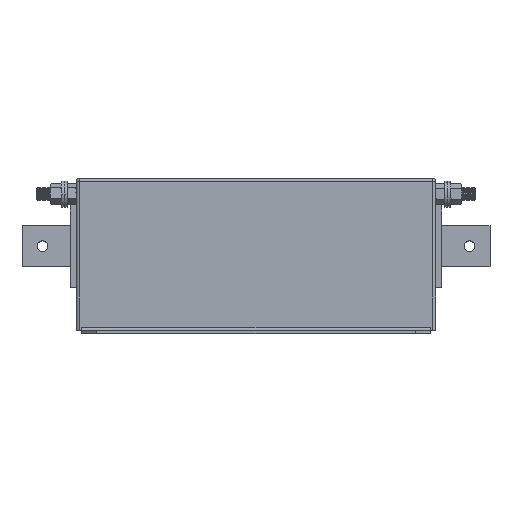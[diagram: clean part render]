
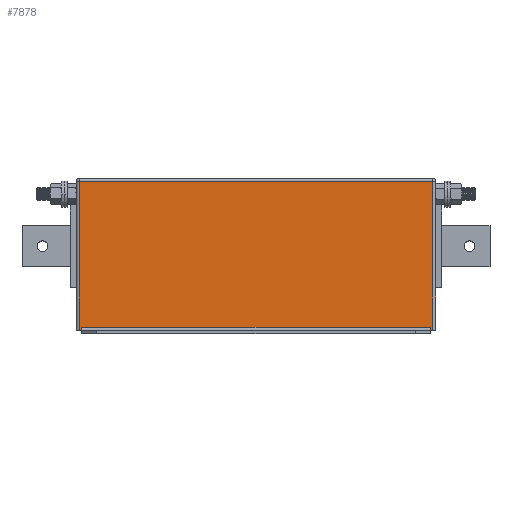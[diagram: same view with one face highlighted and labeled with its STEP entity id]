
A CAD part, top view. The second image highlights one B-rep face of the part: STEP entity #7878.
In plain terms, the highlighted planar face has unit normal (0, 0, 1).
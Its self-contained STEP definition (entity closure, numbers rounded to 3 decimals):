
#4 = LINE ( 'NONE', #4907, #1492 ) ;
#143 = LINE ( 'NONE', #2213, #4212 ) ;
#215 = ORIENTED_EDGE ( 'NONE', *, *, #8474, .T. ) ;
#271 = CARTESIAN_POINT ( 'NONE',  ( 345., 3., 0. ) ) ;
#441 = ORIENTED_EDGE ( 'NONE', *, *, #1905, .T. ) ;
#470 = ORIENTED_EDGE ( 'NONE', *, *, #4431, .T. ) ;
#766 = VECTOR ( 'NONE', #2994, 1000. ) ;
#880 = VECTOR ( 'NONE', #8821, 1000. ) ;
#1281 = CARTESIAN_POINT ( 'NONE',  ( 345., -3., 0. ) ) ;
#1385 = DIRECTION ( 'NONE',  ( -1., 0., 0. ) ) ;
#1492 = VECTOR ( 'NONE', #3545, 1000. ) ;
#1544 = EDGE_CURVE ( 'NONE', #2915, #2466, #3253, .T. ) ;
#1788 = CARTESIAN_POINT ( 'NONE',  ( 5., -3., 0. ) ) ;
#1859 = VERTEX_POINT ( 'NONE', #7935 ) ;
#1885 = EDGE_CURVE ( 'NONE', #2466, #7249, #3999, .T. ) ;
#1905 = EDGE_CURVE ( 'NONE', #5077, #3037, #6800, .T. ) ;
#2213 = CARTESIAN_POINT ( 'NONE',  ( 0., 145., 0. ) ) ;
#2324 = CARTESIAN_POINT ( 'NONE',  ( 0., 0., 0. ) ) ;
#2466 = VERTEX_POINT ( 'NONE', #4604 ) ;
#2568 = ORIENTED_EDGE ( 'NONE', *, *, #7225, .T. ) ;
#2738 = EDGE_CURVE ( 'NONE', #3037, #2884, #4, .T. ) ;
#2884 = VERTEX_POINT ( 'NONE', #3598 ) ;
#2915 = VERTEX_POINT ( 'NONE', #7177 ) ;
#2994 = DIRECTION ( 'NONE',  ( 1., 0., 0. ) ) ;
#3037 = VERTEX_POINT ( 'NONE', #7247 ) ;
#3225 = VECTOR ( 'NONE', #3244, 1000. ) ;
#3244 = DIRECTION ( 'NONE',  ( 1., 0., 0. ) ) ;
#3253 = LINE ( 'NONE', #4680, #5733 ) ;
#3269 = AXIS2_PLACEMENT_3D ( 'NONE', #7550, #6823, #1385 ) ;
#3545 = DIRECTION ( 'NONE',  ( 0., 1., 0. ) ) ;
#3598 = CARTESIAN_POINT ( 'NONE',  ( 347., 145., 0. ) ) ;
#3999 = LINE ( 'NONE', #5192, #5722 ) ;
#4212 = VECTOR ( 'NONE', #4269, 1000. ) ;
#4269 = DIRECTION ( 'NONE',  ( -1., 0., 0. ) ) ;
#4431 = EDGE_CURVE ( 'NONE', #2884, #2915, #143, .T. ) ;
#4604 = CARTESIAN_POINT ( 'NONE',  ( 3., 0., 0. ) ) ;
#4680 = CARTESIAN_POINT ( 'NONE',  ( 3., 148., 0. ) ) ;
#4907 = CARTESIAN_POINT ( 'NONE',  ( 347., 148., 0. ) ) ;
#5077 = VERTEX_POINT ( 'NONE', #5855 ) ;
#5192 = CARTESIAN_POINT ( 'NONE',  ( 0., 0., 0. ) ) ;
#5215 = VECTOR ( 'NONE', #8094, 1000. ) ;
#5287 = EDGE_LOOP ( 'NONE', ( #2568, #215, #441, #7955, #470, #6803, #8075, #6128 ) ) ;
#5380 = CARTESIAN_POINT ( 'NONE',  ( 5., 0., 0. ) ) ;
#5437 = LINE ( 'NONE', #1788, #5215 ) ;
#5722 = VECTOR ( 'NONE', #6555, 1000. ) ;
#5733 = VECTOR ( 'NONE', #6051, 1000. ) ;
#5855 = CARTESIAN_POINT ( 'NONE',  ( 345., 0., 0. ) ) ;
#5863 = LINE ( 'NONE', #1281, #880 ) ;
#5983 = EDGE_CURVE ( 'NONE', #7249, #1859, #5437, .T. ) ;
#6051 = DIRECTION ( 'NONE',  ( 0., -1., 0. ) ) ;
#6128 = ORIENTED_EDGE ( 'NONE', *, *, #5983, .T. ) ;
#6141 = FACE_OUTER_BOUND ( 'NONE', #5287, .T. ) ;
#6199 = PLANE ( 'NONE',  #3269 ) ;
#6315 = VERTEX_POINT ( 'NONE', #271 ) ;
#6555 = DIRECTION ( 'NONE',  ( 1., 0., 0. ) ) ;
#6800 = LINE ( 'NONE', #2324, #766 ) ;
#6803 = ORIENTED_EDGE ( 'NONE', *, *, #1544, .T. ) ;
#6823 = DIRECTION ( 'NONE',  ( 0., 0., -1. ) ) ;
#7007 = LINE ( 'NONE', #8852, #3225 ) ;
#7177 = CARTESIAN_POINT ( 'NONE',  ( 3., 145., 0. ) ) ;
#7225 = EDGE_CURVE ( 'NONE', #1859, #6315, #7007, .T. ) ;
#7247 = CARTESIAN_POINT ( 'NONE',  ( 347., 0., 0. ) ) ;
#7249 = VERTEX_POINT ( 'NONE', #5380 ) ;
#7550 = CARTESIAN_POINT ( 'NONE',  ( 0., 148., 0. ) ) ;
#7878 = ADVANCED_FACE ( 'NONE', ( #6141 ), #6199, .F. ) ;
#7935 = CARTESIAN_POINT ( 'NONE',  ( 5., 3., 0. ) ) ;
#7955 = ORIENTED_EDGE ( 'NONE', *, *, #2738, .T. ) ;
#8075 = ORIENTED_EDGE ( 'NONE', *, *, #1885, .T. ) ;
#8094 = DIRECTION ( 'NONE',  ( 0., 1., 0. ) ) ;
#8474 = EDGE_CURVE ( 'NONE', #6315, #5077, #5863, .T. ) ;
#8821 = DIRECTION ( 'NONE',  ( 0., -1., 0. ) ) ;
#8852 = CARTESIAN_POINT ( 'NONE',  ( 345., 3., 0. ) ) ;
